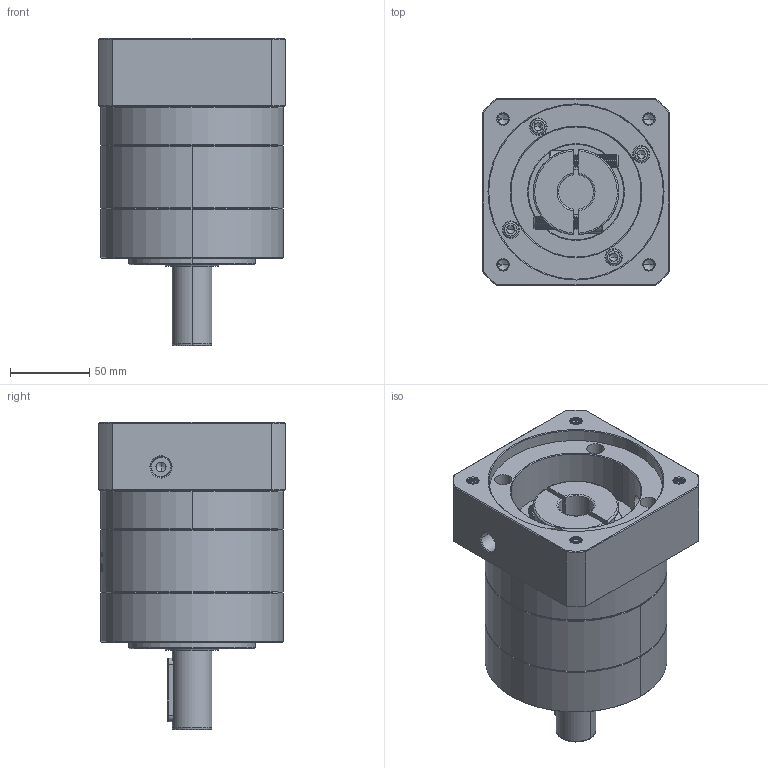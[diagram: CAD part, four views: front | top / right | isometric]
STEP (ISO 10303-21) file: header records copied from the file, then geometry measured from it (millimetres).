
FILE_DESCRIPTION (( 'STEP AP214' ), '1' );
FILE_NAME ('ZE120A-D25-L1-22-110-130-M8.step', '2023-03-09T06:22:21', ( '' ), ( '' ), 'SwSTEP 2.0', 'SolidWorks 2016', '' );
FILE_SCHEMA (( 'AUTOMOTIVE_DESIGN' ));
Length unit declared in the file: millimetre
Products named in the file (1): ZE120A-D25-L1-22-110-130-M8
Bounding box: 118 x 118 x 193.5 mm (x, y, z)
Volume: 1383743 mm3; surface area: 160592.9 mm2
Topology: 6 solids, 6 shells, 2044 faces, 5408 edges, 3461 vertices
Faces by surface type: plane 836, cylinder 520, bspline 353, cone 335
Entity records: 118916 total; most frequent: CARTESIAN_POINT 50410, ORIENTED_EDGE 10740, DIRECTION 8082, EDGE_CURVE 5370, VERTEX_POINT 3461, VECTOR 2812, LINE 2812, AXIS2_PLACEMENT_3D 2635
